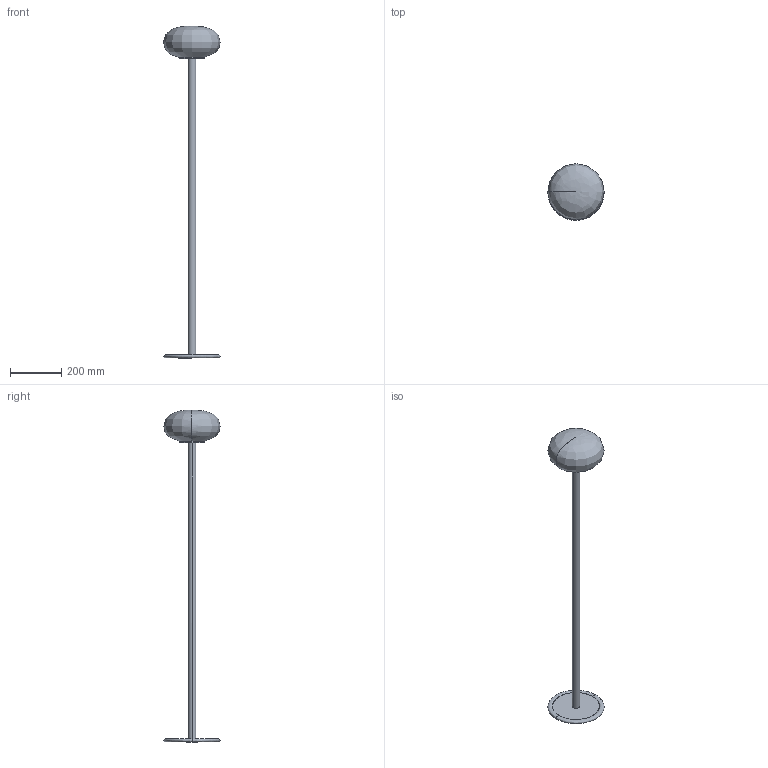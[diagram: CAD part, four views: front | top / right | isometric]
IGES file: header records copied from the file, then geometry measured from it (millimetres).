
Global section: file name: /Users/064_p/Desktop/3d data_02/ILKW_SNOWBALL22_V2_Floor_3D.igs; native system: Rhinoceros ( Jul  7 2025 ); preprocessor: Trout Lake IGES 012 Jul  7 2025; date: 260828.082320; units: millimetre
Bounding box: 219.99 x 220.01 x 1300 mm (x, y, z)
Surface area: 309436.4 mm2 (no closed solid volume)
Topology: 0 solids, 0 shells, 10 faces, 127 edges, 123 vertices
Faces by surface type: bspline 10
